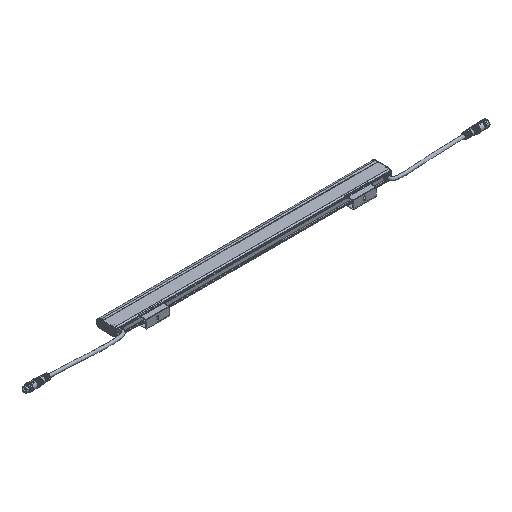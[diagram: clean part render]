
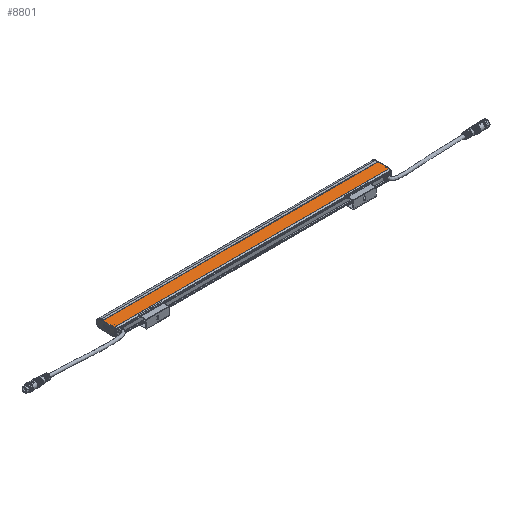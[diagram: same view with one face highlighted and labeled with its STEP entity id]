
A CAD part, isometric view. The second image highlights one B-rep face of the part: STEP entity #8801.
In plain terms, the highlighted planar face has unit normal (0, 0, 1).
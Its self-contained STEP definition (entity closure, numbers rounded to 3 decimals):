
#21 = ORIENTED_EDGE ( 'NONE', *, *, #43373, .F. ) ;
#4069 = EDGE_LOOP ( 'NONE', ( #21, #29215, #35578, #30644, #7541, #23039, #50949, #33856 ) ) ;
#4379 = EDGE_CURVE ( 'NONE', #9987, #26267, #55756, .T. ) ;
#4837 = CARTESIAN_POINT ( 'NONE',  ( 298., 0., 9.15 ) ) ;
#5137 = LINE ( 'NONE', #41078, #46591 ) ;
#5338 = VECTOR ( 'NONE', #18638, 1000. ) ;
#5430 = DIRECTION ( 'NONE',  ( 0., 0., -1. ) ) ;
#5913 = CARTESIAN_POINT ( 'NONE',  ( 299.5, 20.786, 9.15 ) ) ;
#6296 = DIRECTION ( 'NONE',  ( 0., 1., 0. ) ) ;
#7541 = ORIENTED_EDGE ( 'NONE', *, *, #4379, .T. ) ;
#7566 = EDGE_CURVE ( 'NONE', #9987, #18788, #5137, .T. ) ;
#7592 = VERTEX_POINT ( 'NONE', #14162 ) ;
#8801 = ADVANCED_FACE ( 'NONE', ( #31764 ), #44603, .F. ) ;
#9026 = CARTESIAN_POINT ( 'NONE',  ( -298., 45.5, 9.15 ) ) ;
#9987 = VERTEX_POINT ( 'NONE', #5913 ) ;
#11039 = LINE ( 'NONE', #19272, #39419 ) ;
#13554 = CARTESIAN_POINT ( 'NONE',  ( 298., 50.842, 9.15 ) ) ;
#14162 = CARTESIAN_POINT ( 'NONE',  ( 298., 45.5, 9.15 ) ) ;
#15074 = CARTESIAN_POINT ( 'NONE',  ( 299.5, 50.842, 9.15 ) ) ;
#15078 = LINE ( 'NONE', #27967, #51955 ) ;
#15486 = VECTOR ( 'NONE', #6296, 1000. ) ;
#16053 = VERTEX_POINT ( 'NONE', #32990 ) ;
#16141 = CARTESIAN_POINT ( 'NONE',  ( 298., 45.5, 9.15 ) ) ;
#17258 = EDGE_CURVE ( 'NONE', #16053, #18788, #11039, .T. ) ;
#17757 = LINE ( 'NONE', #23006, #5338 ) ;
#18638 = DIRECTION ( 'NONE',  ( -1., 0., 0. ) ) ;
#18788 = VERTEX_POINT ( 'NONE', #55874 ) ;
#18997 = DIRECTION ( 'NONE',  ( 0., -1., 0. ) ) ;
#19272 = CARTESIAN_POINT ( 'NONE',  ( -299.5, 0., 9.15 ) ) ;
#22501 = DIRECTION ( 'NONE',  ( 1., 0., 0. ) ) ;
#23006 = CARTESIAN_POINT ( 'NONE',  ( 298., 50.842, 9.15 ) ) ;
#23039 = ORIENTED_EDGE ( 'NONE', *, *, #39322, .T. ) ;
#24212 = DIRECTION ( 'NONE',  ( 0., -1., 0. ) ) ;
#24525 = EDGE_CURVE ( 'NONE', #28708, #7592, #50350, .T. ) ;
#26267 = VERTEX_POINT ( 'NONE', #39108 ) ;
#27967 = CARTESIAN_POINT ( 'NONE',  ( 298., 50.842, 9.15 ) ) ;
#28708 = VERTEX_POINT ( 'NONE', #32981 ) ;
#29215 = ORIENTED_EDGE ( 'NONE', *, *, #40322, .T. ) ;
#30644 = ORIENTED_EDGE ( 'NONE', *, *, #7566, .F. ) ;
#31764 = FACE_OUTER_BOUND ( 'NONE', #4069, .T. ) ;
#32981 = CARTESIAN_POINT ( 'NONE',  ( -298., 45.5, 9.15 ) ) ;
#32990 = CARTESIAN_POINT ( 'NONE',  ( -299.5, 50.842, 9.15 ) ) ;
#33856 = ORIENTED_EDGE ( 'NONE', *, *, #24525, .F. ) ;
#34033 = VECTOR ( 'NONE', #22501, 1000. ) ;
#35578 = ORIENTED_EDGE ( 'NONE', *, *, #17258, .T. ) ;
#36903 = EDGE_CURVE ( 'NONE', #37894, #7592, #51589, .T. ) ;
#37894 = VERTEX_POINT ( 'NONE', #13554 ) ;
#39108 = CARTESIAN_POINT ( 'NONE',  ( 299.5, 50.842, 9.15 ) ) ;
#39322 = EDGE_CURVE ( 'NONE', #26267, #37894, #15078, .T. ) ;
#39419 = VECTOR ( 'NONE', #24212, 1000. ) ;
#40313 = VECTOR ( 'NONE', #55667, 1000. ) ;
#40322 = EDGE_CURVE ( 'NONE', #54501, #16053, #17757, .T. ) ;
#41078 = CARTESIAN_POINT ( 'NONE',  ( 298., 20.786, 9.15 ) ) ;
#41077 = VECTOR ( 'NONE', #18997, 1000. ) ;
#43373 = EDGE_CURVE ( 'NONE', #54501, #28708, #55566, .T. ) ;
#44603 = PLANE ( 'NONE',  #45591 ) ;
#45591 = AXIS2_PLACEMENT_3D ( 'NONE', #4837, #5430, #53419 ) ;
#46591 = VECTOR ( 'NONE', #49939, 1000. ) ;
#48604 = CARTESIAN_POINT ( 'NONE',  ( -298., 50.842, 9.15 ) ) ;
#49939 = DIRECTION ( 'NONE',  ( -1., 0., 0. ) ) ;
#50350 = LINE ( 'NONE', #9026, #34033 ) ;
#50364 = CARTESIAN_POINT ( 'NONE',  ( -298., 45.5, 9.15 ) ) ;
#50949 = ORIENTED_EDGE ( 'NONE', *, *, #36903, .T. ) ;
#51589 = LINE ( 'NONE', #16141, #40313 ) ;
#51955 = VECTOR ( 'NONE', #55185, 1000. ) ;
#53419 = DIRECTION ( 'NONE',  ( 0., 1., 0. ) ) ;
#54501 = VERTEX_POINT ( 'NONE', #48604 ) ;
#55185 = DIRECTION ( 'NONE',  ( -1., 0., 0. ) ) ;
#55566 = LINE ( 'NONE', #50364, #41077 ) ;
#55667 = DIRECTION ( 'NONE',  ( 0., -1., 0. ) ) ;
#55756 = LINE ( 'NONE', #15074, #15486 ) ;
#55874 = CARTESIAN_POINT ( 'NONE',  ( -299.5, 20.786, 9.15 ) ) ;
